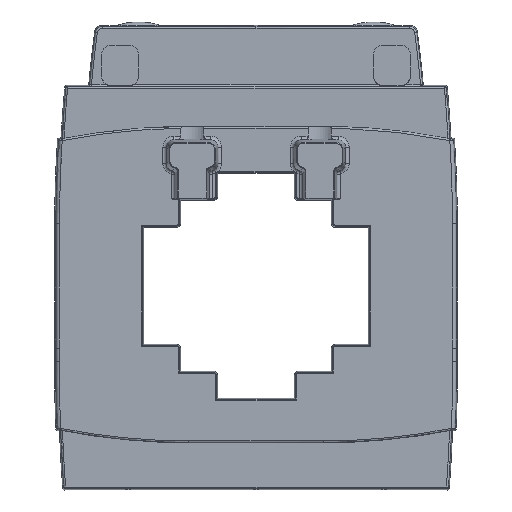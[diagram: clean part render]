
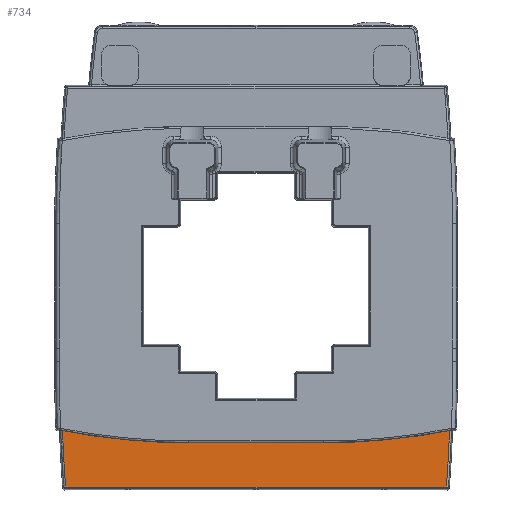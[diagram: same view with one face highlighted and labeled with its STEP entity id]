
A CAD part, front view. The second image highlights one B-rep face of the part: STEP entity #734.
In plain terms, the highlighted planar face has unit normal (0, -1, 0).
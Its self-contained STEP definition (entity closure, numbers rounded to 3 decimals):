
#460=ELLIPSE('',#9347,181.08,181.053);
#461=ELLIPSE('',#9348,181.079,181.052);
#734=ADVANCED_FACE('',(#1432),#1165,.T.);
#1165=PLANE('',#9349);
#1432=FACE_OUTER_BOUND('',#1971,.T.);
#1971=EDGE_LOOP('',(#4492,#4493,#4494,#4495,#4496,#4497));
#2879=LINE('',#14178,#3412);
#2880=LINE('',#14188,#3413);
#3412=VECTOR('',#10674,1.);
#3413=VECTOR('',#10679,1.);
#4492=ORIENTED_EDGE('',*,*,#7812,.T.);
#4493=ORIENTED_EDGE('',*,*,#7813,.T.);
#4494=ORIENTED_EDGE('',*,*,#7797,.F.);
#4495=ORIENTED_EDGE('',*,*,#7814,.F.);
#4496=ORIENTED_EDGE('',*,*,#7810,.F.);
#4497=ORIENTED_EDGE('',*,*,#7815,.F.);
#6831=VERTEX_POINT('',#14094);
#6832=VERTEX_POINT('',#14095);
#6840=VERTEX_POINT('',#14177);
#6841=VERTEX_POINT('',#14179);
#6842=VERTEX_POINT('',#14186);
#6843=VERTEX_POINT('',#14187);
#7797=EDGE_CURVE('',#6831,#6832,#8856,.T.);
#7810=EDGE_CURVE('',#6840,#6841,#2879,.T.);
#7812=EDGE_CURVE('',#6842,#6843,#8860,.T.);
#7813=EDGE_CURVE('',#6843,#6832,#2880,.T.);
#7814=EDGE_CURVE('',#6841,#6831,#460,.T.);
#7815=EDGE_CURVE('',#6842,#6840,#461,.T.);
#8856=CIRCLE('',#9338,375.154);
#8860=CIRCLE('',#9346,375.154);
#9338=AXIS2_PLACEMENT_3D('',#14093,#10660,#10661);
#9346=AXIS2_PLACEMENT_3D('',#14185,#10677,#10678);
#9347=AXIS2_PLACEMENT_3D('',#14189,#10680,#10681);
#9348=AXIS2_PLACEMENT_3D('',#14190,#10682,#10683);
#9349=AXIS2_PLACEMENT_3D('',#14191,#10684,#10685);
#10660=DIRECTION('',(0.,1.,0.));
#10661=DIRECTION('',(0.,0.,1.));
#10674=DIRECTION('',(1.,0.,0.));
#10677=DIRECTION('',(0.,-1.,0.));
#10678=DIRECTION('',(0.,0.,1.));
#10679=DIRECTION('',(1.,0.,0.));
#10680=DIRECTION('',(0.,-1.,0.));
#10681=DIRECTION('',(0.134,0.,-0.991));
#10682=DIRECTION('',(0.,-1.,0.));
#10683=DIRECTION('',(-0.067,0.,-0.998));
#10684=DIRECTION('',(0.,-1.,0.));
#10685=DIRECTION('',(0.,0.,-1.));
#14093=CARTESIAN_POINT('',(-322.077,-18.5,-26.563));
#14094=CARTESIAN_POINT('',(52.853,-18.5,-39.52));
#14095=CARTESIAN_POINT('',(52.002,-18.5,-54.938));
#14177=CARTESIAN_POINT('',(-18.3,-18.5,-42.856));
#14178=CARTESIAN_POINT('',(7.136,-18.5,-42.855));
#14179=CARTESIAN_POINT('',(18.3,-18.5,-42.856));
#14185=CARTESIAN_POINT('',(322.077,-18.5,-26.563));
#14186=CARTESIAN_POINT('',(-52.853,-18.5,-39.52));
#14187=CARTESIAN_POINT('',(-52.002,-18.5,-54.938));
#14188=CARTESIAN_POINT('',(-11.964,-18.5,-54.938));
#14189=CARTESIAN_POINT('',(18.225,-18.5,138.219));
#14190=CARTESIAN_POINT('',(-18.233,-18.5,138.219));
#14191=CARTESIAN_POINT('',(-11.964,-18.5,-12.942));
